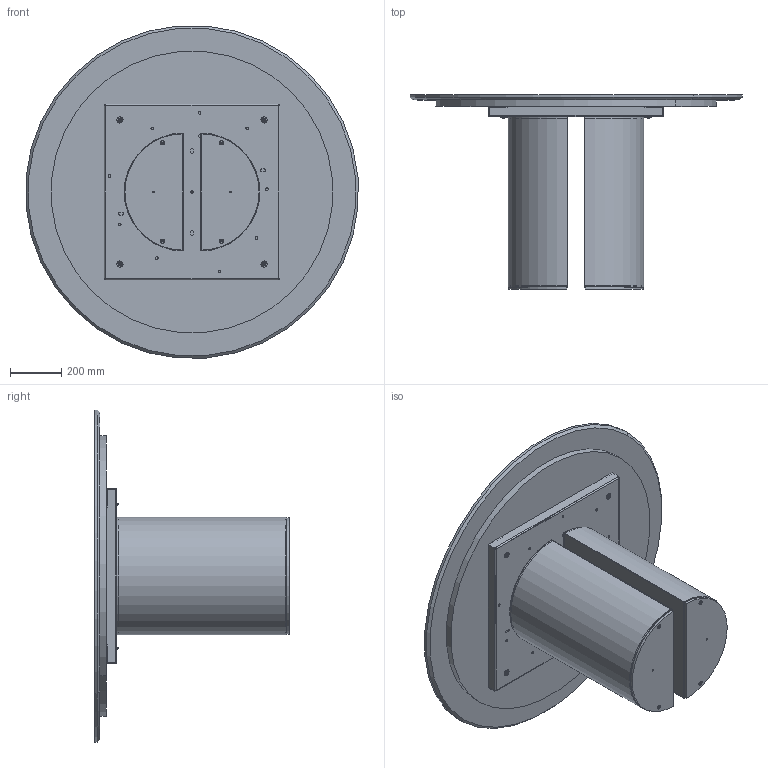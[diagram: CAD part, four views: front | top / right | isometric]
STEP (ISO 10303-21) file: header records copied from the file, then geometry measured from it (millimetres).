
FILE_DESCRIPTION (( 'STEP AP203' ), '1' );
FILE_NAME ('DR05M.STEP', '2024-08-06T12:58:25', ( '' ), ( '' ), 'SwSTEP 2.0', 'SolidWorks 2022', '' );
FILE_SCHEMA (( 'CONFIG_CONTROL_DESIGN' ));
Length unit declared in the file: millimetre
Products named in the file (15): DR05M; M0X-00- D. piani marmo_D.1300; TTAV0801-02-TELAIO UNIVERSALE TONDO-VASSOIO; Assieme Basamento PLAI_Basamento per tavoli; M8xXXmm_M8x55mm; PLA000000ZOC-01-PLAI ZOCCOLO DELLA BASE; M0XMXX-00-Piani Rotondi in marmo 2024_1300; TTAV0801 TELAIO UNIVERSALE TONDO-PIASTRINA; TTAV0801-02-TELAIO UNIVERSALE TONDO; M8xXXmm_hex_M8X60mm; PLA000000BAS-00-PLAI BASE GREZZA; TRU0000X-00-SOTTO PIANO D.XXXXmm_TRU00002 D.110cm ; rondella M8_8X24; M8xXXmm_hex_M8X20mm; COLLO TELAIO UNIVERSALE TTAV0801 CON FERRAMENTA_MTG TOP LEGNO-MARMO-KING
Assembly tree (24 placements, depth 4):
  DR05M
    Assieme Basamento PLAI_Basamento per tavoli  x2
      PLA000000BAS-00-PLAI BASE GREZZA
      PLA000000ZOC-01-PLAI ZOCCOLO DELLA BASE
      M8xXXmm_hex_M8X60mm
      M8xXXmm_hex_M8X20mm
    COLLO TELAIO UNIVERSALE TTAV0801 CON FERRAMENTA_MTG TOP LEGNO-MARMO-KING
      TTAV0801-02-TELAIO UNIVERSALE TONDO
        TTAV0801-02-TELAIO UNIVERSALE TONDO-VASSOIO
        TTAV0801 TELAIO UNIVERSALE TONDO-PIASTRINA  x4
      rondella M8_8X24  x4
      M8xXXmm_M8x55mm  x4
    M0XMXX-00-Piani Rotondi in marmo 2024_1300
      M0X-00- D. piani marmo_D.1300
      TRU0000X-00-SOTTO PIANO D.XXXXmm_TRU00002 D.110cm 
Bounding box: 1295.05 x 759 x 1295.05 mm (x, y, z)
Volume: 57946642.4 mm3; surface area: 9753249.2 mm2
Topology: 29 solids, 29 shells, 876 faces, 2168 edges, 1337 vertices
Faces by surface type: plane 408, cylinder 318, cone 94, torus 56
Entity records: 17053 total; most frequent: DIRECTION 2760, CARTESIAN_POINT 2646, ORIENTED_EDGE 2514, EDGE_CURVE 1257, AXIS2_PLACEMENT_3D 995, VERTEX_POINT 795, LINE 770, VECTOR 770
